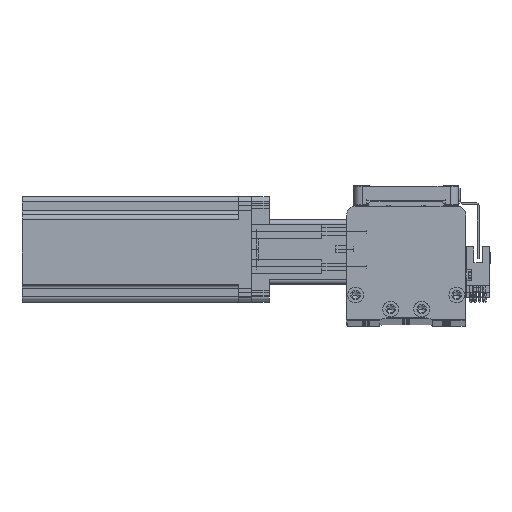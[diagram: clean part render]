
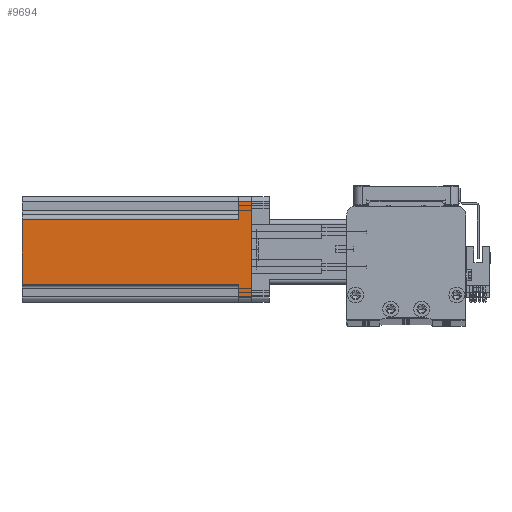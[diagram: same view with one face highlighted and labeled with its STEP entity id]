
A CAD part, top view. The second image highlights one B-rep face of the part: STEP entity #9694.
In plain terms, the highlighted planar face has unit normal (0, 0, 1) as drawn and (-1, 0, 0) by its records, which use the part's own axes.
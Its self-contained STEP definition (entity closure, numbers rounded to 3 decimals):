
#671 = DIRECTION ( 'NONE',  ( 0., 0., 1. ) ) ;
#1771 = CARTESIAN_POINT ( 'NONE',  ( -30., -27., 7.5 ) ) ;
#2088 = VERTEX_POINT ( 'NONE', #3584 ) ;
#3539 = ORIENTED_EDGE ( 'NONE', *, *, #4917, .T. ) ;
#3584 = CARTESIAN_POINT ( 'NONE',  ( -30., -17., 7.5 ) ) ;
#4050 = LINE ( 'NONE', #39810, #33221 ) ;
#4917 = EDGE_CURVE ( 'NONE', #2088, #32572, #14278, .T. ) ;
#5057 = VERTEX_POINT ( 'NONE', #26225 ) ;
#5856 = DIRECTION ( 'NONE',  ( 0., 0., 1. ) ) ;
#6378 = DIRECTION ( 'NONE',  ( 0., 0., -1. ) ) ;
#7119 = DIRECTION ( 'NONE',  ( 0., -1., 0. ) ) ;
#7225 = LINE ( 'NONE', #43265, #16962 ) ;
#7549 = EDGE_CURVE ( 'NONE', #10754, #5057, #9953, .T. ) ;
#8658 = VECTOR ( 'NONE', #34367, 1000. ) ;
#9694 = ADVANCED_FACE ( 'NONE', ( #10265 ), #21822, .F. ) ;
#9953 = LINE ( 'NONE', #26020, #8658 ) ;
#10265 = FACE_OUTER_BOUND ( 'NONE', #34052, .T. ) ;
#10307 = LINE ( 'NONE', #24336, #42169 ) ;
#10754 = VERTEX_POINT ( 'NONE', #45203 ) ;
#11504 = VERTEX_POINT ( 'NONE', #16593 ) ;
#11606 = CARTESIAN_POINT ( 'NONE',  ( -30., -27., 0. ) ) ;
#12453 = VERTEX_POINT ( 'NONE', #11606 ) ;
#12999 = VERTEX_POINT ( 'NONE', #1771 ) ;
#14016 = CARTESIAN_POINT ( 'NONE',  ( -30., 20., 7.5 ) ) ;
#14278 = LINE ( 'NONE', #29688, #25319 ) ;
#15323 = EDGE_CURVE ( 'NONE', #11504, #12453, #40263, .T. ) ;
#16593 = CARTESIAN_POINT ( 'NONE',  ( -30., 27., 0. ) ) ;
#16824 = VECTOR ( 'NONE', #49292, 1000. ) ;
#16962 = VECTOR ( 'NONE', #5856, 1000. ) ;
#17720 = EDGE_CURVE ( 'NONE', #22648, #32572, #32149, .T. ) ;
#17866 = DIRECTION ( 'NONE',  ( 1., 0., 0. ) ) ;
#19019 = ORIENTED_EDGE ( 'NONE', *, *, #17720, .F. ) ;
#19113 = ORIENTED_EDGE ( 'NONE', *, *, #19662, .T. ) ;
#19662 = EDGE_CURVE ( 'NONE', #5057, #11504, #4050, .T. ) ;
#20159 = CARTESIAN_POINT ( 'NONE',  ( -30., -30., 0. ) ) ;
#21092 = VECTOR ( 'NONE', #7119, 1000. ) ;
#21822 = PLANE ( 'NONE',  #40358 ) ;
#22315 = DIRECTION ( 'NONE',  ( 0., 0., 1. ) ) ;
#22648 = VERTEX_POINT ( 'NONE', #30361 ) ;
#22696 = ORIENTED_EDGE ( 'NONE', *, *, #31919, .F. ) ;
#24336 = CARTESIAN_POINT ( 'NONE',  ( -30., -30., 7.5 ) ) ;
#25319 = VECTOR ( 'NONE', #671, 1000. ) ;
#26020 = CARTESIAN_POINT ( 'NONE',  ( -30., 30., 7.5 ) ) ;
#26225 = CARTESIAN_POINT ( 'NONE',  ( -30., 27., 7.5 ) ) ;
#27149 = VECTOR ( 'NONE', #22315, 1000. ) ;
#29688 = CARTESIAN_POINT ( 'NONE',  ( -30., -17., 130.7 ) ) ;
#30361 = CARTESIAN_POINT ( 'NONE',  ( -30., 20., 130.7 ) ) ;
#31919 = EDGE_CURVE ( 'NONE', #2088, #12999, #10307, .T. ) ;
#32149 = LINE ( 'NONE', #33864, #21092 ) ;
#32572 = VERTEX_POINT ( 'NONE', #37382 ) ;
#32660 = DIRECTION ( 'NONE',  ( 0., -1., 0. ) ) ;
#33221 = VECTOR ( 'NONE', #6378, 1000. ) ;
#33864 = CARTESIAN_POINT ( 'NONE',  ( -30., -30., 130.7 ) ) ;
#34008 = ORIENTED_EDGE ( 'NONE', *, *, #15323, .T. ) ;
#34052 = EDGE_LOOP ( 'NONE', ( #22696, #3539, #19019, #45960, #47394, #19113, #34008, #43595 ) ) ;
#34367 = DIRECTION ( 'NONE',  ( 0., 1., 0. ) ) ;
#37382 = CARTESIAN_POINT ( 'NONE',  ( -30., -17., 130.7 ) ) ;
#37397 = EDGE_CURVE ( 'NONE', #10754, #22648, #50573, .T. ) ;
#39810 = CARTESIAN_POINT ( 'NONE',  ( -30., 27., 130.7 ) ) ;
#40263 = LINE ( 'NONE', #20159, #16824 ) ;
#40358 = AXIS2_PLACEMENT_3D ( 'NONE', #42761, #17866, #46986 ) ;
#42169 = VECTOR ( 'NONE', #32660, 1000. ) ;
#42761 = CARTESIAN_POINT ( 'NONE',  ( -30., -30., 130.7 ) ) ;
#43265 = CARTESIAN_POINT ( 'NONE',  ( -30., -27., 130.7 ) ) ;
#43595 = ORIENTED_EDGE ( 'NONE', *, *, #52142, .T. ) ;
#45203 = CARTESIAN_POINT ( 'NONE',  ( -30., 20., 7.5 ) ) ;
#45960 = ORIENTED_EDGE ( 'NONE', *, *, #37397, .F. ) ;
#46986 = DIRECTION ( 'NONE',  ( 0., 0., -1. ) ) ;
#47394 = ORIENTED_EDGE ( 'NONE', *, *, #7549, .T. ) ;
#49292 = DIRECTION ( 'NONE',  ( 0., -1., 0. ) ) ;
#50573 = LINE ( 'NONE', #14016, #27149 ) ;
#52142 = EDGE_CURVE ( 'NONE', #12453, #12999, #7225, .T. ) ;
